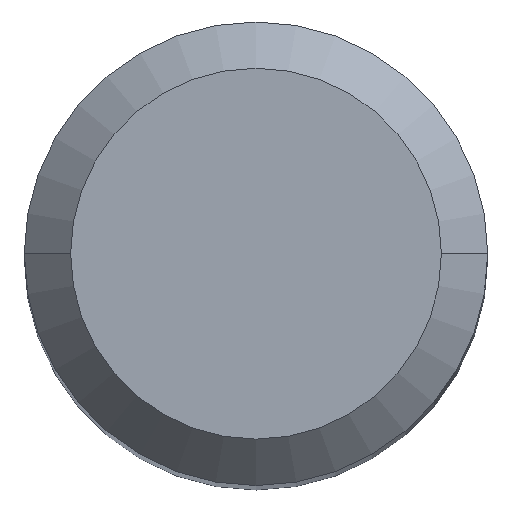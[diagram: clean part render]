
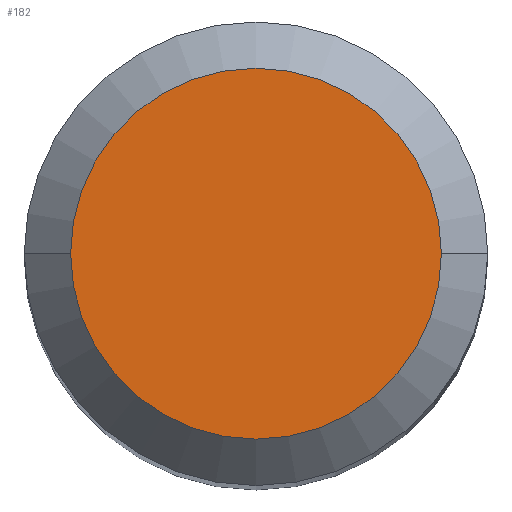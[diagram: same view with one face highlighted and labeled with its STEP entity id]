
A CAD part, top view. The second image highlights one B-rep face of the part: STEP entity #182.
In plain terms, the highlighted planar face has unit normal (0, 0, 1).
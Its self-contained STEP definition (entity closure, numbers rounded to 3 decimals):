
#12 = AXIS2_PLACEMENT_3D ( 'NONE', #474, #440, #302 ) ;
#13 = CARTESIAN_POINT ( 'NONE',  ( -2.4, 0., 0. ) ) ;
#15 = EDGE_CURVE ( 'NONE', #21, #198, #499, .T. ) ;
#21 = VERTEX_POINT ( 'NONE', #381 ) ;
#108 = AXIS2_PLACEMENT_3D ( 'NONE', #336, #418, #545 ) ;
#128 = ORIENTED_EDGE ( 'NONE', *, *, #164, .F. ) ;
#164 = EDGE_CURVE ( 'NONE', #198, #21, #398, .T. ) ;
#169 = DIRECTION ( 'NONE',  ( 0., 0., 1. ) ) ;
#182 = ADVANCED_FACE ( 'NONE', ( #309 ), #257, .T. ) ;
#187 = ORIENTED_EDGE ( 'NONE', *, *, #15, .F. ) ;
#198 = VERTEX_POINT ( 'NONE', #13 ) ;
#257 = PLANE ( 'NONE',  #448 ) ;
#302 = DIRECTION ( 'NONE',  ( -1., 0., 0. ) ) ;
#309 = FACE_OUTER_BOUND ( 'NONE', #362, .T. ) ;
#336 = CARTESIAN_POINT ( 'NONE',  ( 0., 0., 0. ) ) ;
#362 = EDGE_LOOP ( 'NONE', ( #128, #187 ) ) ;
#381 = CARTESIAN_POINT ( 'NONE',  ( 2.4, 0., 0. ) ) ;
#395 = CARTESIAN_POINT ( 'NONE',  ( 0., 2.4, 0. ) ) ;
#398 = CIRCLE ( 'NONE', #12, 2.4 ) ;
#418 = DIRECTION ( 'NONE',  ( 0., 0., -1. ) ) ;
#436 = DIRECTION ( 'NONE',  ( 1., 0., 0. ) ) ;
#440 = DIRECTION ( 'NONE',  ( 0., 0., -1. ) ) ;
#448 = AXIS2_PLACEMENT_3D ( 'NONE', #395, #169, #436 ) ;
#474 = CARTESIAN_POINT ( 'NONE',  ( 0., 0., 0. ) ) ;
#499 = CIRCLE ( 'NONE', #108, 2.4 ) ;
#545 = DIRECTION ( 'NONE',  ( -1., 0., 0. ) ) ;
